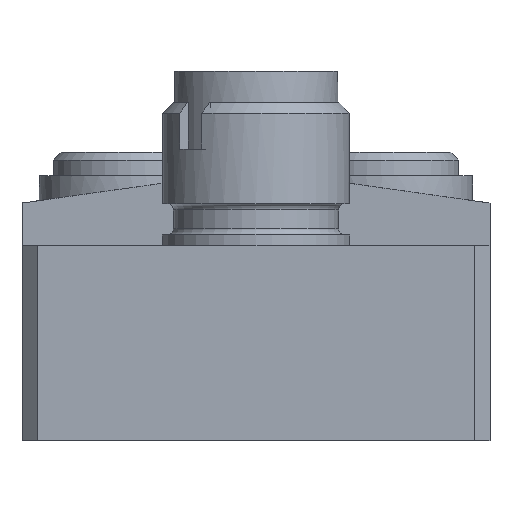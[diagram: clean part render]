
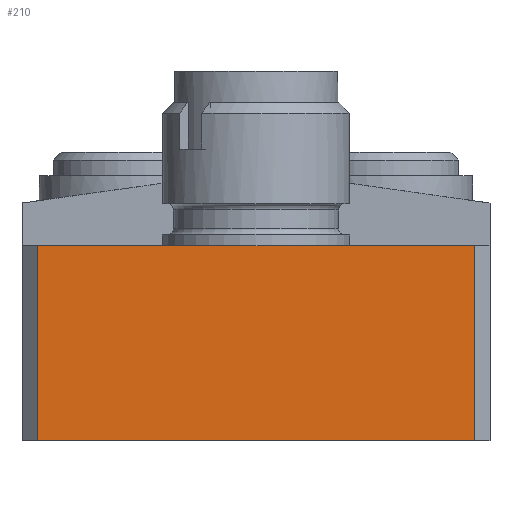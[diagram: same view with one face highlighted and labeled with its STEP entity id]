
A CAD part, front view. The second image highlights one B-rep face of the part: STEP entity #210.
In plain terms, the highlighted planar face has unit normal (0, -1, 0).
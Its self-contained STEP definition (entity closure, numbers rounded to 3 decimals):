
#210 = ADVANCED_FACE( '', ( #740 ), #741, .F. );
#740 = FACE_OUTER_BOUND( '', #1815, .T. );
#741 = PLANE( '', #1816 );
#1815 = EDGE_LOOP( '', ( #3914, #3915, #3916, #3917 ) );
#1816 = AXIS2_PLACEMENT_3D( '', #3918, #3919, #3920 );
#3914 = ORIENTED_EDGE( '', *, *, #6369, .T. );
#3915 = ORIENTED_EDGE( '', *, *, #6076, .T. );
#3916 = ORIENTED_EDGE( '', *, *, #6487, .T. );
#3917 = ORIENTED_EDGE( '', *, *, #6485, .F. );
#3918 = CARTESIAN_POINT( '', ( -14., 0., 30. ) );
#3919 = DIRECTION( '', ( 0., 1., 0. ) );
#3920 = DIRECTION( '', ( 0., 0., 1. ) );
#6076 = EDGE_CURVE( '', #9413, #9417, #9419, .T. );
#6369 = EDGE_CURVE( '', #9953, #9413, #9954, .T. );
#6485 = EDGE_CURVE( '', #9953, #10158, #10159, .T. );
#6487 = EDGE_CURVE( '', #9417, #10158, #10161, .T. );
#9413 = VERTEX_POINT( '', #11570 );
#9417 = VERTEX_POINT( '', #11576 );
#9419 = LINE( '', #11579, #11580 );
#9953 = VERTEX_POINT( '', #12344 );
#9954 = LINE( '', #12345, #12346 );
#10158 = VERTEX_POINT( '', #12633 );
#10159 = LINE( '', #12634, #12635 );
#10161 = LINE( '', #12638, #12639 );
#11570 = CARTESIAN_POINT( '', ( -14., 0., 12.5 ) );
#11576 = CARTESIAN_POINT( '', ( -14., 0., 0. ) );
#11579 = CARTESIAN_POINT( '', ( -14., 0., 30. ) );
#11580 = VECTOR( '', #14870, 1000. );
#12344 = CARTESIAN_POINT( '', ( 14., 0., 12.5 ) );
#12345 = CARTESIAN_POINT( '', ( 15., 0., 12.5 ) );
#12346 = VECTOR( '', #15290, 1000. );
#12633 = CARTESIAN_POINT( '', ( 14., 0., 0. ) );
#12634 = CARTESIAN_POINT( '', ( 14., 0., 30. ) );
#12635 = VECTOR( '', #15470, 1000. );
#12638 = CARTESIAN_POINT( '', ( -14., 0., 0. ) );
#12639 = VECTOR( '', #15472, 1000. );
#14870 = DIRECTION( '', ( 0., 0., -1. ) );
#15290 = DIRECTION( '', ( -1., 0., 0. ) );
#15470 = DIRECTION( '', ( 0., 0., -1. ) );
#15472 = DIRECTION( '', ( 1., 0., 0. ) );
